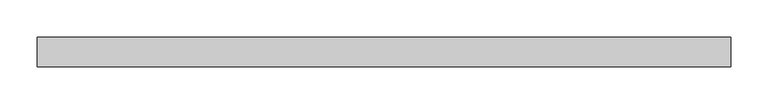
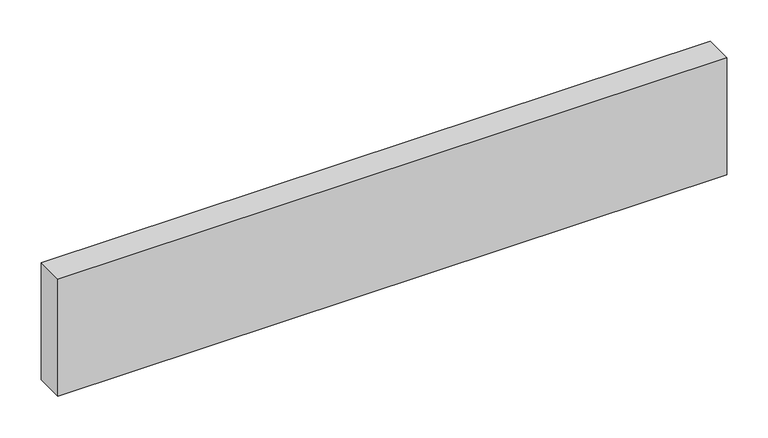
"""IFC4 building model written with IfcOpenShell, lengths in millimetres: plate geometry, Panneau système vide : Epaiss. 4cm."""

from ifc_helpers import new_model, si_unit, origin, origin_with_axes, place, context, project, spatial, polyline, outline, extrude, source, transform, mapped, element, save


def plate_0c05ab2a(model_context):
    return source(origin(), model_context, "Body", "SweptSolid", [
        extrude(outline(polyline([(468.0778041, -20.0), (-468.0778041, -20.0), (-468.0778041, 20.0), (468.0778041, 20.0), (468.0778041, -20.0)])), origin_with_axes(), (0.0, 0.0, 1.0), 173.3333333),
    ])


if __name__ == "__main__":
    model = new_model("IFC4")
    model_context = context("Model", 3, world=origin())
    ifc_project = project(units=[si_unit("LENGTHUNIT", "METRE", prefix="MILLI")], contexts=[model_context])
    site = spatial("IfcSite", under=ifc_project)
    building = spatial("IfcBuilding", under=site)
    placement = place(None, origin())
    plate_shape = plate_0c05ab2a(model_context)
    element("IfcPlate", 1, ObjectType="Panneau système vide : Epaiss. 4cm", at=placement, inside=building, context=model_context, shape_type="MappedRepresentation", body=[
        mapped(plate_shape, transform((0.0, 0.0, 0.0), x_axis=(1.0, 0.0, 0.0), y_axis=(0.0, 1.0, 0.0), z_axis=(0.0, 0.0, 1.0))),
    ])
    save(model, "model.ifc")
